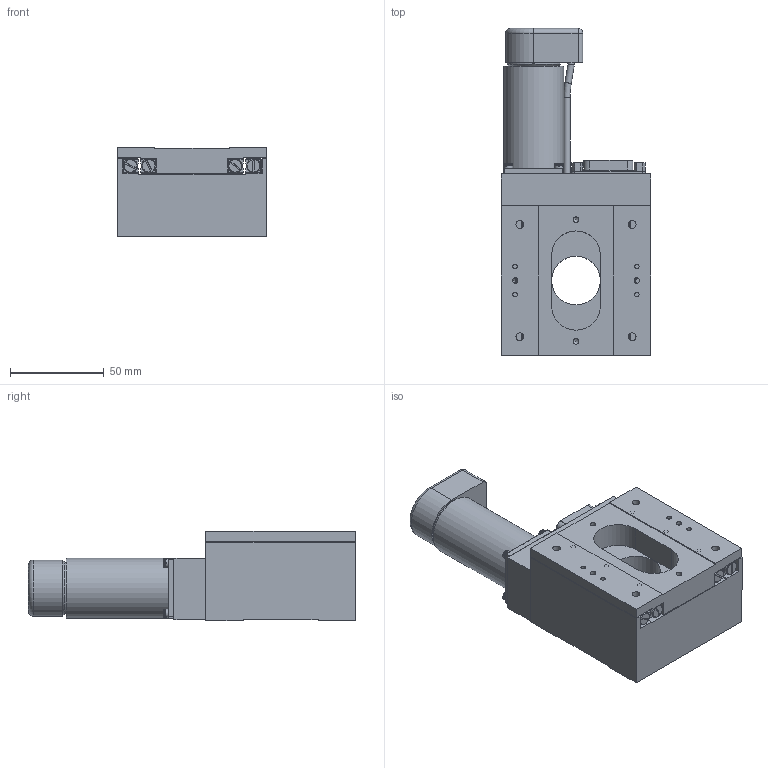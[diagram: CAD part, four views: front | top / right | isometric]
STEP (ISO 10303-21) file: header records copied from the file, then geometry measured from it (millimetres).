
FILE_DESCRIPTION(/* description */ (''),/* implementation_level */ '2;1');
FILE_NAME(/* name */ 'H:\Inventor\Katalog\3D-CAD-Modelle\STP neu\PT4-Nxxx-CAD.stp',/* time_stamp */ '2024-01-19T11:59:44+01:00',/* author */ ('KON3'),/* organization */ (''),/* preprocessor_version */ 'ST-DEVELOPER v18',/* originating_system */ 'Autodesk Inventor 2020',/* authorisation */ '');
FILE_SCHEMA (('AUTOMOTIVE_DESIGN { 1 0 10303 214 3 1 1 }'));
Length unit declared in the file: millimetre
Products named in the file (6): PT4-Nxxx-CAD; PT4-NSOC_Shrinkwrap_oben; PT4-Nxxx_unten; ZSS33-MOK_25_Shrinkwrap_1; M25-MAX20-D-Zubehoer_Shrinkwrap_1; M25-MAX20-Zubehoer_Shrinkwrap_1
Assembly tree (5 placements, depth 2):
  PT4-Nxxx-CAD
    PT4-NSOC_Shrinkwrap_oben
    PT4-Nxxx_unten
    ZSS33-MOK_25_Shrinkwrap_1
    M25-MAX20-D-Zubehoer_Shrinkwrap_1
    M25-MAX20-Zubehoer_Shrinkwrap_1
Bounding box: 80.01 x 174.7 x 48 mm (x, y, z)
Volume: 437765.6 mm3; surface area: 117053.1 mm2
Topology: 50 solids, 50 shells, 1551 faces, 4036 edges, 2741 vertices
Faces by surface type: plane 805, cylinder 386, bspline 194, cone 118, torus 45, sphere 3
Full cylindrical faces by diameter (mm): 1 x30, 1.221 x2, 1.567 x8, 1.783 x3, 1.8 x2, 2 x3, 2.013 x4, 2.156 x2, 2.256 x8, 2.4 x8, 2.459 x25, 2.5 x12, 2.8 x12, 3 x17, 3.2 x2, 3.242 x16, 3.4 x12, 3.5 x8, 4 x7, 4.134 x4, 4.5 x7, 5.5 x2, 6 x22, 7 x3, 7.5 x8, 8 x9, 10 x4, 18 x1, 18.1 x1, 22 x1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
Entity records: 52314 total; most frequent: CARTESIAN_POINT 12390, ORIENTED_EDGE 7972, DIRECTION 7621, EDGE_CURVE 3986, AXIS2_PLACEMENT_3D 2795, VERTEX_POINT 2741, LINE 2031, VECTOR 2031
